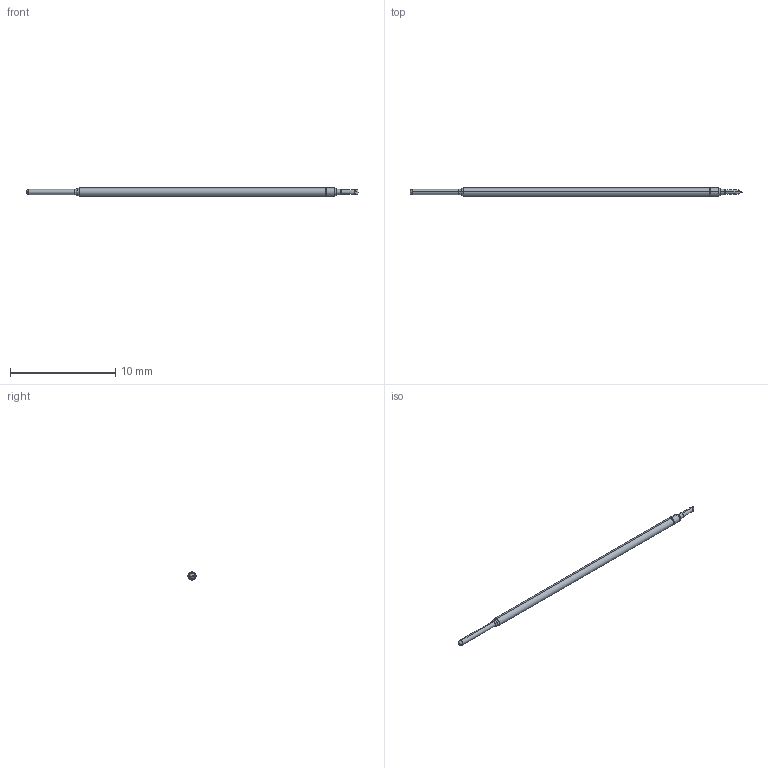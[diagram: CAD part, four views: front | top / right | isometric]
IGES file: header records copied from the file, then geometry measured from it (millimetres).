
Start section: SolidWorks IGES file using analytic representation for surfaces
Global section: file name: C:\Documents and Settings\mrumschlag\Desktop\changes\new\test\I15 FULL.IGS; native system: SolidWorks 2011; preprocessor: SolidWorks 2011; author: mrumschlag; date: 110630.142739; units: inch
Bounding box: 31.58 x 0.76 x 0.76 mm (x, y, z)
Surface area: 69.9 mm2 (no closed solid volume)
Topology: 0 solids, 0 shells, 35 faces, 210 edges, 208 vertices
Faces by surface type: revolution 22, bspline 13
